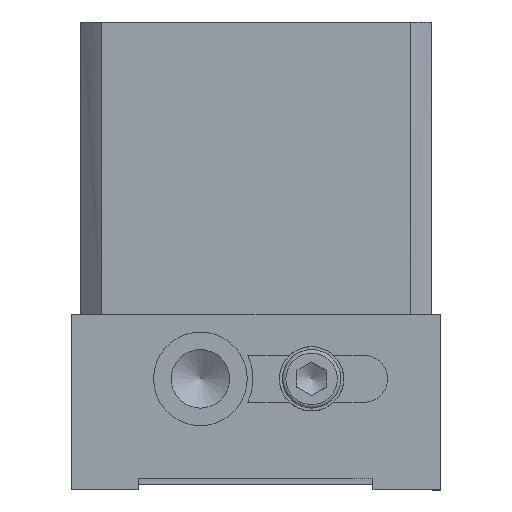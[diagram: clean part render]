
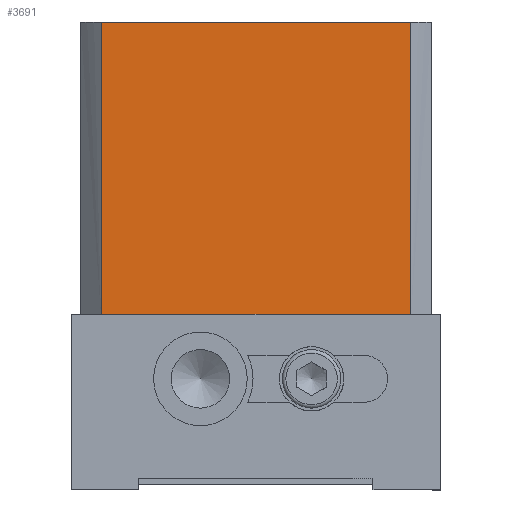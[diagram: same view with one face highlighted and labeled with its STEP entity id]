
A CAD part, left-side view. The second image highlights one B-rep face of the part: STEP entity #3691.
In plain terms, the highlighted planar face has unit normal (-1, 0, 0).
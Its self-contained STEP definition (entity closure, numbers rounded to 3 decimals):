
#2599=CARTESIAN_POINT('',(-30.,3.542,-50.));
#2600=VERTEX_POINT('',#2599);
#2610=CARTESIAN_POINT('',(-30.,56.458,-50.));
#2611=VERTEX_POINT('',#2610);
#2612=CARTESIAN_POINT('',(-30.,56.458,-50.));
#2613=DIRECTION('',(0.0,-1.0,0.0));
#2614=VECTOR('',#2613,52.915);
#2615=LINE('',#2612,#2614);
#2616=EDGE_CURVE('',#2611,#2600,#2615,.T.);
#3661=CARTESIAN_POINT('',(-30.,56.458,0.0));
#3662=DIRECTION('',(-1.0,0.0,0.0));
#3663=DIRECTION('',(0.0,0.0,1.0));
#3664=AXIS2_PLACEMENT_3D('',#3661,#3662,#3663);
#3665=PLANE('',#3664);
#3666=ORIENTED_EDGE('',*,*,#2616,.T.);
#3667=CARTESIAN_POINT('',(-30.,3.542,0.0));
#3668=VERTEX_POINT('',#3667);
#3669=CARTESIAN_POINT('',(-30.,3.542,0.0));
#3670=DIRECTION('',(0.0,0.0,-1.0));
#3671=VECTOR('',#3670,50.);
#3672=LINE('',#3669,#3671);
#3673=EDGE_CURVE('',#3668,#2600,#3672,.T.);
#3674=ORIENTED_EDGE('',*,*,#3673,.F.);
#3675=CARTESIAN_POINT('',(-30.,56.458,0.0));
#3676=VERTEX_POINT('',#3675);
#3677=CARTESIAN_POINT('',(-30.0,56.458,0.0));
#3678=DIRECTION('',(0.0,-1.0,0.0));
#3679=VECTOR('',#3678,52.915);
#3680=LINE('',#3677,#3679);
#3681=EDGE_CURVE('',#3676,#3668,#3680,.T.);
#3682=ORIENTED_EDGE('',*,*,#3681,.F.);
#3683=CARTESIAN_POINT('',(-30.,56.458,0.0));
#3684=DIRECTION('',(0.0,0.0,-1.0));
#3685=VECTOR('',#3684,50.);
#3686=LINE('',#3683,#3685);
#3687=EDGE_CURVE('',#3676,#2611,#3686,.T.);
#3688=ORIENTED_EDGE('',*,*,#3687,.T.);
#3689=EDGE_LOOP('',(#3666,#3674,#3682,#3688));
#3690=FACE_OUTER_BOUND('',#3689,.T.);
#3691=ADVANCED_FACE('',(#3690),#3665,.T.);
